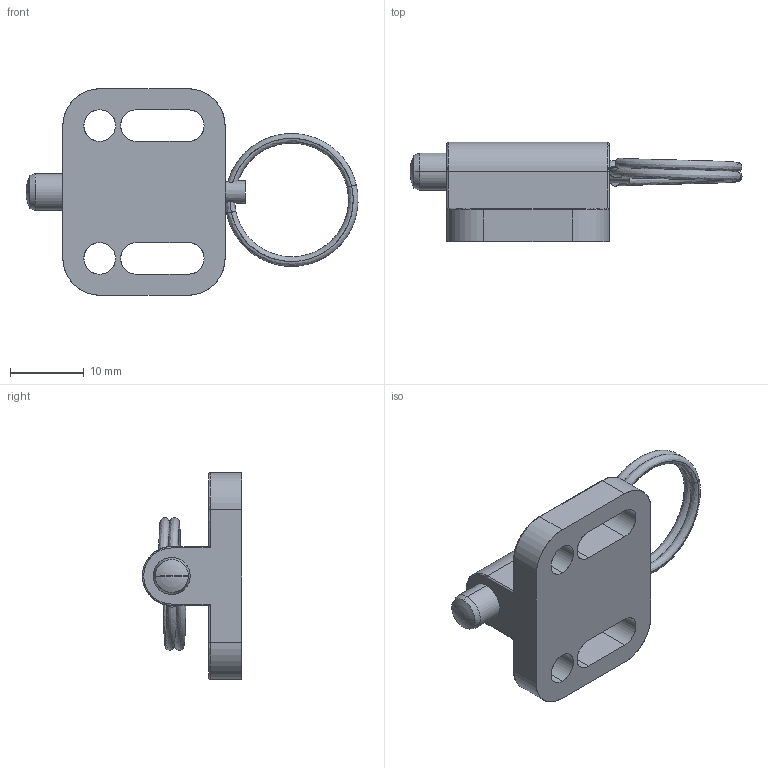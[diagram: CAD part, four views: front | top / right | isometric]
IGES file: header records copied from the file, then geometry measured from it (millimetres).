
Start section: SolidWorks IGES file using analytic representation for surfaces
Global section: file name: C:\HEMSIDA\cad\SLDPRT_2007\gn417\\gn417a_5.igs; native system: SolidWorks 2007; preprocessor: SolidWorks 2007; author: Administrator; date: 070919.152953; units: millimetre
Bounding box: 45.03 x 13.5 x 28 mm (x, y, z)
Surface area: 3294.1 mm2 (no closed solid volume)
Topology: 0 solids, 0 shells, 67 faces, 988 edges, 987 vertices
Faces by surface type: revolution 37, bspline 30
